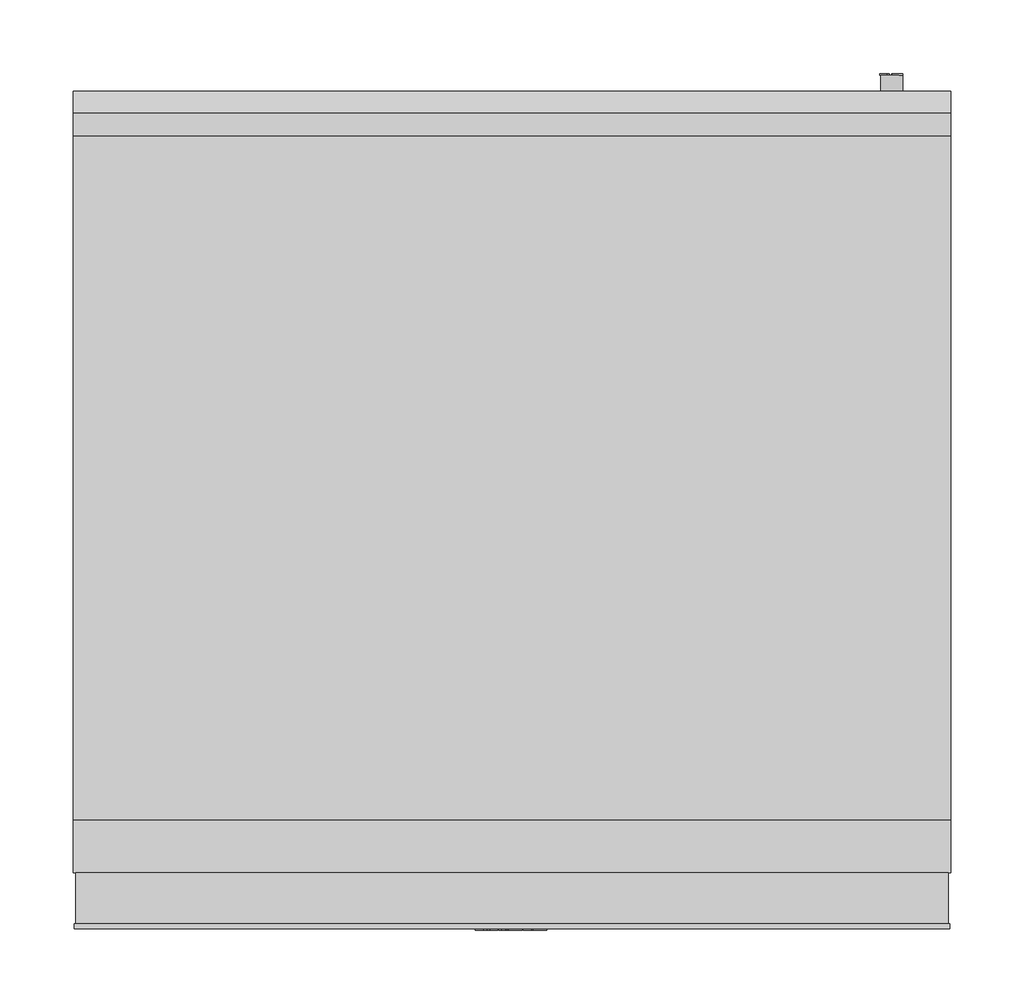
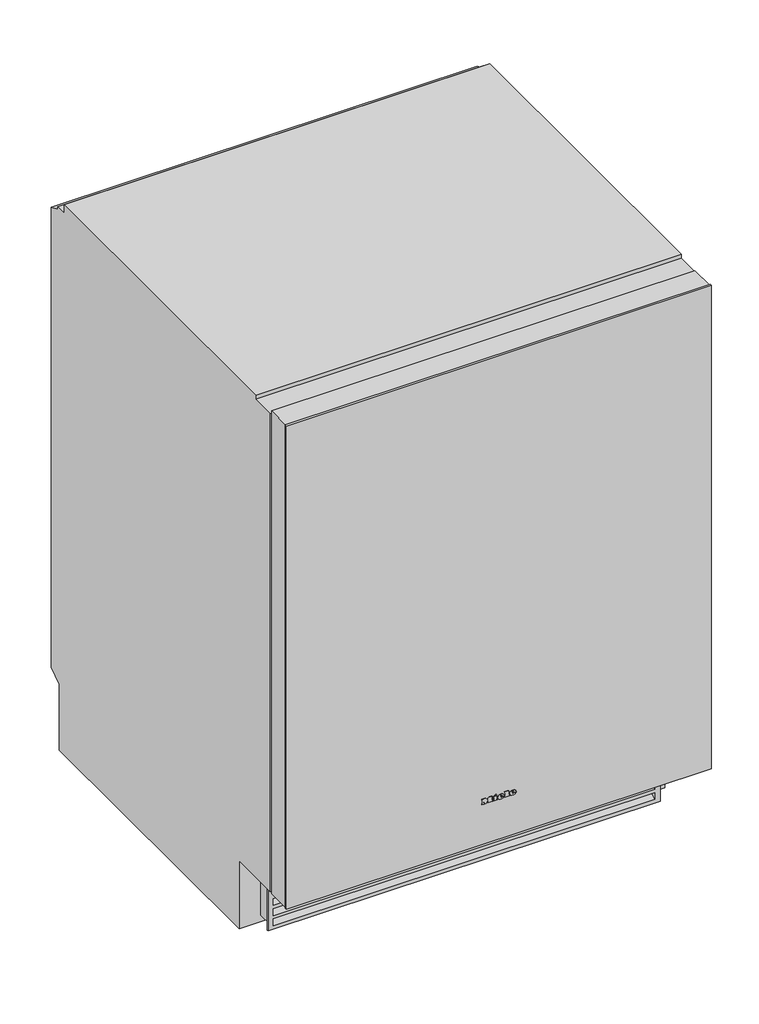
# Not in any storey: 1 proxy.
"""IFC4 building model written with IfcOpenShell, lengths in millimetres."""

from ifc_helpers import new_model, si_unit, origin, place, context, project, spatial, transform, mapped, element, save
from components import specialty_equipment_a93c78a1, specialty_equipment_e1f332ee, specialty_equipment_e16e2d4e

model = new_model("IFC4")

# Units and contexts
model_context = context("Model", 3, world=origin())
ifc_project = project(units=[si_unit("LENGTHUNIT", "METRE", prefix="MILLI")], contexts=[model_context])

# Site, building
site = spatial("IfcSite", under=ifc_project)
building = spatial("IfcBuilding", under=site)

# Proxy
placement = place(None, origin())
specialty_equipment_shape = specialty_equipment_a93c78a1(model_context)
specialty_equipment_2_shape = specialty_equipment_e1f332ee(model_context)
specialty_equipment_3_shape = specialty_equipment_e16e2d4e(model_context)
element("IfcBuildingElementProxy", 1, Name="12497050_GB_KWT6322UG-1 : 36632202_GB_12497050_KWT6322UG-1", ObjectType="12497050_GB_KWT6322UG-1 : 36632202_GB_12497050_KWT6322UG-1", at=placement, inside=building, context=model_context, shape_type="MappedRepresentation", body=[
    mapped(specialty_equipment_shape, transform((0.0, 0.0, 0.0), x_axis=(1.0, 0.0, 0.0), y_axis=(0.0, 1.0, 0.0), z_axis=(0.0, 0.0, 1.0))),
    mapped(specialty_equipment_2_shape, transform((0.0, 0.0, 0.0), x_axis=(1.0, 0.0, 0.0), y_axis=(0.0, 1.0, 0.0), z_axis=(0.0, 0.0, 1.0))),
    mapped(specialty_equipment_3_shape, transform((0.0, 0.0, 0.0), x_axis=(1.0, 0.0, 0.0), y_axis=(0.0, 1.0, 0.0), z_axis=(0.0, 0.0, 1.0))),
])

save(model, "model.ifc")
